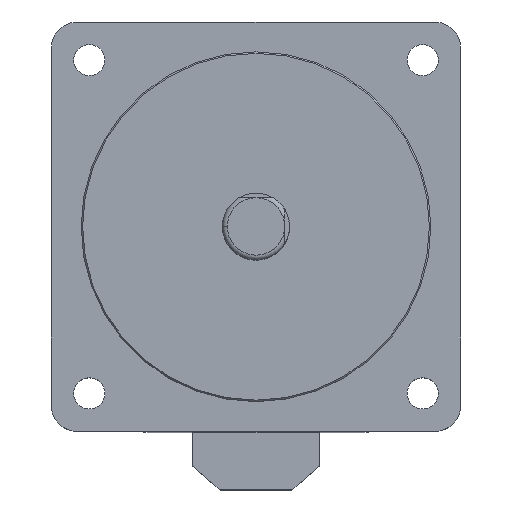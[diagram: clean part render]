
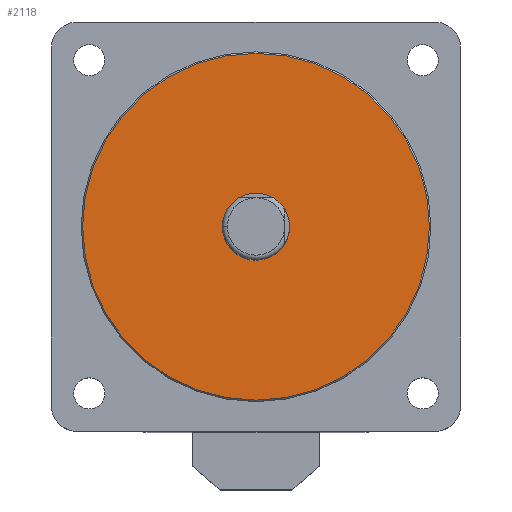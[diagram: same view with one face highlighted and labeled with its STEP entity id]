
A CAD part, top view. The second image highlights one B-rep face of the part: STEP entity #2118.
In plain terms, the highlighted planar face has unit normal (0, 0, 1).
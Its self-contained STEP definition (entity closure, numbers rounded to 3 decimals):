
#61 = AXIS2_PLACEMENT_3D ( 'NONE', #1007, #744, #441 ) ;
#92 = DIRECTION ( 'NONE',  ( -1., 0., 0. ) ) ;
#110 = VERTEX_POINT ( 'NONE', #1571 ) ;
#229 = ORIENTED_EDGE ( 'NONE', *, *, #1211, .T. ) ;
#257 = DIRECTION ( 'NONE',  ( -1., 0., 0. ) ) ;
#359 = CIRCLE ( 'NONE', #61, 36.212 ) ;
#394 = PLANE ( 'NONE',  #2140 ) ;
#396 = CIRCLE ( 'NONE', #1725, 36.212 ) ;
#407 = EDGE_CURVE ( 'NONE', #2189, #1179, #630, .T. ) ;
#413 = DIRECTION ( 'NONE',  ( 0., 0., -1. ) ) ;
#441 = DIRECTION ( 'NONE',  ( -1., 0., 0. ) ) ;
#559 = AXIS2_PLACEMENT_3D ( 'NONE', #2192, #574, #257 ) ;
#574 = DIRECTION ( 'NONE',  ( 0., 0., -1. ) ) ;
#578 = ORIENTED_EDGE ( 'NONE', *, *, #2621, .T. ) ;
#630 = CIRCLE ( 'NONE', #559, 7. ) ;
#724 = CARTESIAN_POINT ( 'NONE',  ( 0., 0., 0. ) ) ;
#732 = EDGE_LOOP ( 'NONE', ( #1539, #578 ) ) ;
#744 = DIRECTION ( 'NONE',  ( 0., 0., 1. ) ) ;
#819 = EDGE_CURVE ( 'NONE', #2497, #110, #396, .T. ) ;
#1007 = CARTESIAN_POINT ( 'NONE',  ( 0., 0., 0. ) ) ;
#1179 = VERTEX_POINT ( 'NONE', #1604 ) ;
#1211 = EDGE_CURVE ( 'NONE', #110, #2497, #359, .T. ) ;
#1284 = CIRCLE ( 'NONE', #2367, 7. ) ;
#1399 = DIRECTION ( 'NONE',  ( -1., 0., 0. ) ) ;
#1464 = ORIENTED_EDGE ( 'NONE', *, *, #819, .T. ) ;
#1539 = ORIENTED_EDGE ( 'NONE', *, *, #407, .T. ) ;
#1571 = CARTESIAN_POINT ( 'NONE',  ( -36.212, 0., 0. ) ) ;
#1604 = CARTESIAN_POINT ( 'NONE',  ( 7., 0., 0. ) ) ;
#1677 = DIRECTION ( 'NONE',  ( 0., 0., 1. ) ) ;
#1721 = DIRECTION ( 'NONE',  ( -1., 0., 0. ) ) ;
#1725 = AXIS2_PLACEMENT_3D ( 'NONE', #2205, #1677, #1399 ) ;
#1795 = FACE_OUTER_BOUND ( 'NONE', #2460, .T. ) ;
#1986 = DIRECTION ( 'NONE',  ( 0., 0., -1. ) ) ;
#2072 = FACE_BOUND ( 'NONE', #732, .T. ) ;
#2118 = ADVANCED_FACE ( 'NONE', ( #1795, #2072 ), #394, .F. ) ;
#2140 = AXIS2_PLACEMENT_3D ( 'NONE', #2257, #1986, #1721 ) ;
#2189 = VERTEX_POINT ( 'NONE', #2666 ) ;
#2192 = CARTESIAN_POINT ( 'NONE',  ( 0., 0., 0. ) ) ;
#2205 = CARTESIAN_POINT ( 'NONE',  ( 0., 0., 0. ) ) ;
#2257 = CARTESIAN_POINT ( 'NONE',  ( 0., 0., 0. ) ) ;
#2367 = AXIS2_PLACEMENT_3D ( 'NONE', #724, #413, #92 ) ;
#2460 = EDGE_LOOP ( 'NONE', ( #229, #1464 ) ) ;
#2497 = VERTEX_POINT ( 'NONE', #2514 ) ;
#2514 = CARTESIAN_POINT ( 'NONE',  ( 36.212, 0., 0. ) ) ;
#2621 = EDGE_CURVE ( 'NONE', #1179, #2189, #1284, .T. ) ;
#2666 = CARTESIAN_POINT ( 'NONE',  ( -7., 0., 0. ) ) ;
